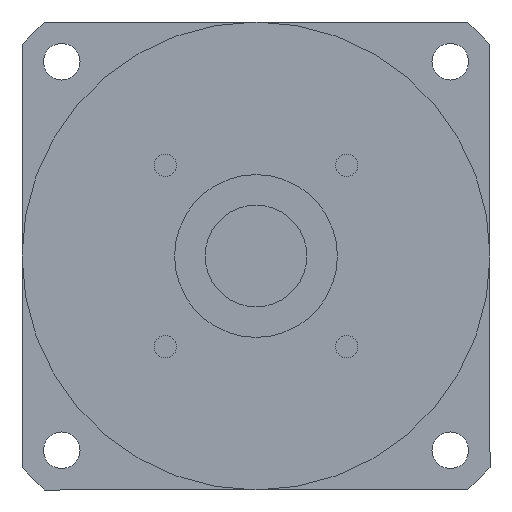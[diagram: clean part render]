
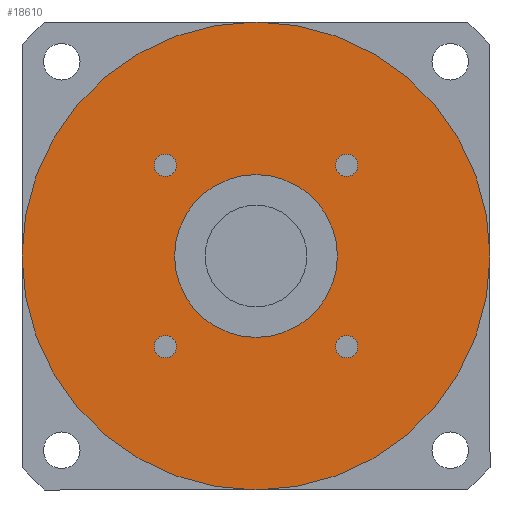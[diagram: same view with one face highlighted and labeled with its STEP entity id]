
A CAD part, left-side view. The second image highlights one B-rep face of the part: STEP entity #18610.
In plain terms, the highlighted planar face has unit normal (-1, 0, 0) as drawn and (0, 0, -1) by its records, which use the part's own axes.
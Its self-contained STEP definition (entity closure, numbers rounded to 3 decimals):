
#15820=CARTESIAN_POINT('',(-19.524,-22.274,-118.));
#15830=VERTEX_POINT('',#15820);
#16010=CARTESIAN_POINT('',(-25.024,-22.274,-118.));
#16020=VERTEX_POINT('',#16010);
#16050=CARTESIAN_POINT('',(-22.274,-22.274,-118.));
#16060=DIRECTION('',(0.,0.,1.));
#16070=DIRECTION('',(1.,0.,0.));
#16080=AXIS2_PLACEMENT_3D('',#16050,#16060,#16070);
#16090=CIRCLE('',#16080,2.75);
#16100=EDGE_CURVE('',#16020,#15830,#16090,.T.);
#16240=CARTESIAN_POINT('',(19.524,22.274,-118.));
#16250=VERTEX_POINT('',#16240);
#16430=CARTESIAN_POINT('',(25.024,22.274,-118.));
#16440=VERTEX_POINT('',#16430);
#16470=CARTESIAN_POINT('',(22.274,22.274,-118.));
#16480=DIRECTION('',(0.,0.,1.));
#16490=DIRECTION('',(-1.,0.,0.));
#16500=AXIS2_PLACEMENT_3D('',#16470,#16480,#16490);
#16510=CIRCLE('',#16500,2.75);
#16520=EDGE_CURVE('',#16440,#16250,#16510,.T.);
#17680=CARTESIAN_POINT('',(57.5,0.,-118.));
#17690=VERTEX_POINT('',#17680);
#17720=CARTESIAN_POINT('',(0.,0.,
-118.));
#17730=DIRECTION('',(0.,0.,1.));
#17740=DIRECTION('',(0.,-1.,0.));
#17750=AXIS2_PLACEMENT_3D('',#17720,#17730,#17740);
#17760=CIRCLE('',#17750,57.5);
#17770=CARTESIAN_POINT('',(0.,-57.5,-118.));
#17780=VERTEX_POINT('',#17770);
#17790=EDGE_CURVE('',#17780,#17690,#17760,.T.);
#17810=CARTESIAN_POINT('',(-57.5,0.,-118.));
#17820=VERTEX_POINT('',#17810);
#17830=EDGE_CURVE('',#17820,#17780,#17760,.T.);
#17950=CARTESIAN_POINT('',(0.,0.,
-118.));
#17960=DIRECTION('',(0.,0.,1.));
#17970=DIRECTION('',(-1.,0.,0.));
#17980=AXIS2_PLACEMENT_3D('',#17950,#17960,#17970);
#17990=PLANE('',#17980);
#18000=CARTESIAN_POINT('',(0.,0.,
-118.));
#18010=DIRECTION('',(0.,0.,1.));
#18020=DIRECTION('',(1.,0.,0.));
#18030=AXIS2_PLACEMENT_3D('',#18000,#18010,#18020);
#18040=CIRCLE('',#18030,20.);
#18050=CARTESIAN_POINT('',(20.,0.,-118.));
#18060=VERTEX_POINT('',#18050);
#18070=CARTESIAN_POINT('',(-20.,0.,-118.));
#18080=VERTEX_POINT('',#18070);
#18090=EDGE_CURVE('',#18060,#18080,#18040,.T.);
#18100=ORIENTED_EDGE('',*,*,#18090,.T.);
#18110=EDGE_CURVE('',#18080,#18060,#18040,.T.);
#18120=ORIENTED_EDGE('',*,*,#18110,.T.);
#18130=EDGE_LOOP('',(#18120,#18100));
#18140=FACE_BOUND('',#18130,.T.);
#18150=CARTESIAN_POINT('',(22.274,-22.274,-118.));
#18160=DIRECTION('',(0.,0.,1.));
#18170=DIRECTION('',(0.,1.,0.));
#18180=AXIS2_PLACEMENT_3D('',#18150,#18160,#18170);
#18190=CIRCLE('',#18180,2.75);
#18200=CARTESIAN_POINT('',(22.274,-19.524,-118.));
#18210=VERTEX_POINT('',#18200);
#18220=CARTESIAN_POINT('',(22.274,-25.024,-118.));
#18230=VERTEX_POINT('',#18220);
#18240=EDGE_CURVE('',#18210,#18230,#18190,.T.);
#18250=ORIENTED_EDGE('',*,*,#18240,.T.);
#18260=EDGE_CURVE('',#18230,#18210,#18190,.T.);
#18270=ORIENTED_EDGE('',*,*,#18260,.T.);
#18280=EDGE_LOOP('',(#18270,#18250));
#18290=FACE_BOUND('',#18280,.T.);
#18300=EDGE_CURVE('',#16250,#16440,#16510,.T.);
#18310=ORIENTED_EDGE('',*,*,#18300,.T.);
#18320=ORIENTED_EDGE('',*,*,#16520,.T.);
#18330=EDGE_LOOP('',(#18320,#18310));
#18340=FACE_BOUND('',#18330,.T.);
#18350=CARTESIAN_POINT('',(-22.274,22.274,-118.));
#18360=DIRECTION('',(0.,0.,1.));
#18370=DIRECTION('',(0.,-1.,0.));
#18380=AXIS2_PLACEMENT_3D('',#18350,#18360,#18370);
#18390=CIRCLE('',#18380,2.75);
#18400=CARTESIAN_POINT('',(-22.274,19.524,-118.));
#18410=VERTEX_POINT('',#18400);
#18420=CARTESIAN_POINT('',(-22.274,25.024,-118.));
#18430=VERTEX_POINT('',#18420);
#18440=EDGE_CURVE('',#18410,#18430,#18390,.T.);
#18450=ORIENTED_EDGE('',*,*,#18440,.T.);
#18460=EDGE_CURVE('',#18430,#18410,#18390,.T.);
#18470=ORIENTED_EDGE('',*,*,#18460,.T.);
#18480=EDGE_LOOP('',(#18470,#18450));
#18490=FACE_BOUND('',#18480,.T.);
#18500=EDGE_CURVE('',#15830,#16020,#16090,.T.);
#18510=ORIENTED_EDGE('',*,*,#18500,.T.);
#18520=ORIENTED_EDGE('',*,*,#16100,.T.);
#18530=EDGE_LOOP('',(#18520,#18510));
#18540=FACE_BOUND('',#18530,.T.);
#18550=ORIENTED_EDGE('',*,*,#17790,.F.);
#18560=EDGE_CURVE('',#17690,#17820,#17760,.T.);
#18570=ORIENTED_EDGE('',*,*,#18560,.F.);
#18580=ORIENTED_EDGE('',*,*,#17830,.F.);
#18590=EDGE_LOOP('',(#18580,#18570,#18550));
#18600=FACE_OUTER_BOUND('',#18590,.T.);
#18610=ADVANCED_FACE('',(#18140,#18290,#18340,#18490,#18540,#18600),
#17990,.F.);
